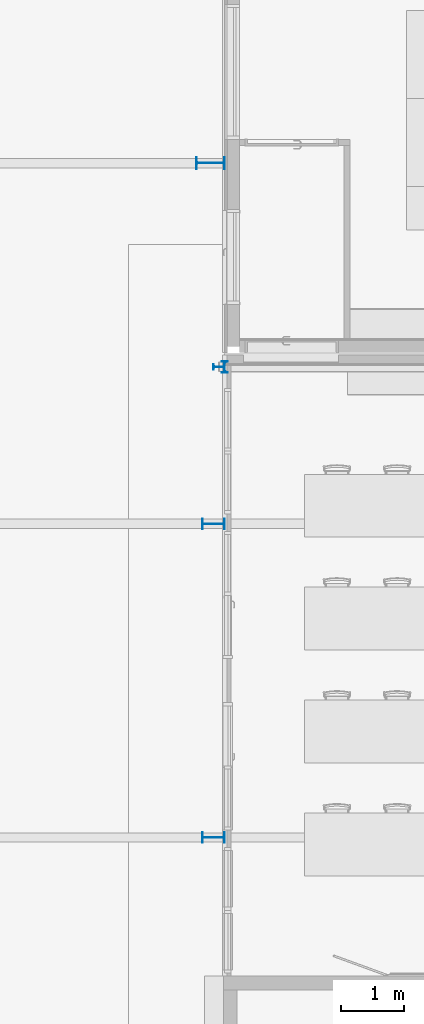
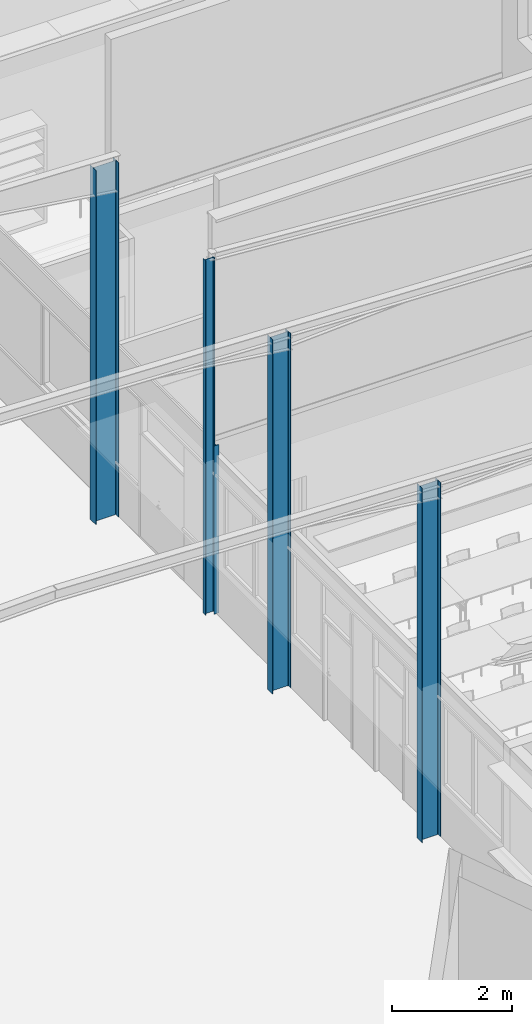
# One storey, part 5 of 137: 5 columns.
"""IFC2X3 building model written with IfcOpenShell, lengths in centimetres."""

from ifc_helpers import new_model, entity, si_unit, converted_unit, derived_unit, direction, frame, frame_2d, origin, place, context, subcontext, project, spatial, polyline, circle_curve, parameter, trimmed, segment, composite_curve, outline, extrude, source, transform, mapped, material, type_object, type_shapes, element, save


model = new_model("IFC2X3")

# Units and contexts
model_context = context("Model", 3, precision=0.001, world=origin(), true_north=direction((6.12303176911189e-17, 1.0)))
body_context = subcontext(model_context, "Body", "Model", "MODEL_VIEW")
ifc_project = project(units=[si_unit("LENGTHUNIT", "METRE", prefix="CENTI"), si_unit("AREAUNIT", "SQUARE_METRE"), si_unit("VOLUMEUNIT", "CUBIC_METRE"), converted_unit("PLANEANGLEUNIT", "DEGREE", entity("IfcRatioMeasure", 0.0174532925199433), si_unit("PLANEANGLEUNIT", "RADIAN"), dimensions=[0, 0, 0, 0, 0, 0, 0]), si_unit("MASSUNIT", "GRAM", prefix="KILO"), si_unit("TIMEUNIT", "SECOND"), si_unit("FREQUENCYUNIT", "HERTZ"), si_unit("THERMODYNAMICTEMPERATUREUNIT", "DEGREE_CELSIUS"), derived_unit("THERMALTRANSMITTANCEUNIT", [(si_unit("MASSUNIT", "GRAM", prefix="KILO"), 1), (si_unit("THERMODYNAMICTEMPERATUREUNIT", "KELVIN"), -1), (si_unit("TIMEUNIT", "SECOND"), -3)]), derived_unit("VOLUMETRICFLOWRATEUNIT", [(si_unit("LENGTHUNIT", "METRE"), 3), (si_unit("TIMEUNIT", "SECOND"), -1)]), si_unit("ELECTRICCURRENTUNIT", "AMPERE"), si_unit("ELECTRICVOLTAGEUNIT", "VOLT"), si_unit("POWERUNIT", "WATT"), si_unit("FORCEUNIT", "NEWTON", prefix="KILO"), si_unit("ILLUMINANCEUNIT", "LUX"), si_unit("LUMINOUSFLUXUNIT", "LUMEN"), si_unit("LUMINOUSINTENSITYUNIT", "CANDELA"), derived_unit("USERDEFINED", [(si_unit("MASSUNIT", "GRAM", prefix="KILO"), -1), (si_unit("LENGTHUNIT", "METRE"), -2), (si_unit("TIMEUNIT", "SECOND"), 3), (si_unit("LUMINOUSFLUXUNIT", "LUMEN"), 1)]), derived_unit("LINEARVELOCITYUNIT", [(si_unit("LENGTHUNIT", "METRE"), 1), (si_unit("TIMEUNIT", "SECOND"), -1)]), si_unit("PRESSUREUNIT", "PASCAL"), derived_unit("USERDEFINED", [(si_unit("LENGTHUNIT", "METRE"), -2), (si_unit("MASSUNIT", "GRAM", prefix="KILO"), 1), (si_unit("TIMEUNIT", "SECOND"), -2)])], contexts=[model_context])

# Site, building, storey
site_placement = place(None, frame((8.62739174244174, -249.285249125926, 0.0)))
site = spatial("IfcSite", under=ifc_project, at=site_placement, Name="Default", CompositionType="ELEMENT")
building_placement = place(site_placement, origin())
building = spatial("IfcBuilding", under=site, at=building_placement, CompositionType="ELEMENT")
storey_placement = place(building_placement, origin())
storey = spatial("IfcBuildingStorey", under=building, at=storey_placement, Name="RDC", CompositionType="ELEMENT", Elevation=-8.82465566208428e-11)

# Columns
ifc_material = material(Name="Acier, 45-345")
column_type_1 = type_object("IfcColumnType", Name="IPE360", PredefinedType="COLUMN", material=ifc_material)
shared_shape_1 = source(origin(), body_context, "Body", "SweptSolid", [
    extrude(outline(composite_curve([segment(polyline([(17.1, -8.5), (18.0, -8.5)]), True, "CONTINUOUS"), segment(polyline([(18.0, -8.5), (18.0, 8.5)]), True, "CONTINUOUS"), segment(polyline([(18.0, 8.5), (17.1, 8.5)]), True, "CONTINUOUS"), segment(polyline([(17.1, 8.5), (17.1, 1.79999999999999)]), True, "CONTINUOUS"), segment(trimmed(circle_curve(frame_2d((15.6, 1.80000000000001), x_axis=(1.0, 0.0)), 1.50000000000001), [parameter(270.000000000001)], [parameter(0.0)], True, "PARAMETER"), False, "CONTINUOUS"), segment(polyline([(15.6, 0.3), (-15.6, 0.3)]), True, "CONTINUOUS"), segment(trimmed(circle_curve(frame_2d((-15.6, 1.8), x_axis=(0.0, -1.0)), 1.5), [parameter(270.0)], [parameter(0.0)], True, "PARAMETER"), False, "CONTINUOUS"), segment(polyline([(-17.1, 1.8), (-17.1, 8.5)]), True, "CONTINUOUS"), segment(polyline([(-17.1, 8.5), (-18.0, 8.5)]), True, "CONTINUOUS"), segment(polyline([(-18.0, 8.5), (-18.0, -8.5)]), True, "CONTINUOUS"), segment(polyline([(-18.0, -8.5), (-17.1, -8.5)]), True, "CONTINUOUS"), segment(polyline([(-17.1, -8.5), (-17.1, -1.8)]), True, "CONTINUOUS"), segment(trimmed(circle_curve(frame_2d((-15.6, -1.8), x_axis=(-1.0, 0.0)), 1.5), [parameter(269.999999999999)], [parameter(0.0)], True, "PARAMETER"), False, "CONTINUOUS"), segment(polyline([(-15.6, -0.299999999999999), (15.6, -0.299999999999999)]), True, "CONTINUOUS"), segment(trimmed(circle_curve(frame_2d((15.6, -1.79999999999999), x_axis=(0.0, 1.0)), 1.49999999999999), [parameter(269.999999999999)], [parameter(0.0)], True, "PARAMETER"), False, "CONTINUOUS"), segment(polyline([(17.1, -1.8), (17.1, -8.5)]), True, "CONTINUOUS")], self_intersect=False)), frame((0.0, 0.0, 0.0), z_axis=(0.0, 0.0, 1.0), x_axis=(0.0, -1.0, 0.0)), (0.0, 0.0, 1.0), 722.0),
])
type_shapes(column_type_1, [shared_shape_1])
for number, where, z_axis, x_axis in (
    (1, (3011.90482780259, 2361.98020806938, 0.0), (0.0, 0.0, 1.0), (0.0, -1.0, 0.0)),
    (2, (3011.90482780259, 1861.98020806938, 0.0), (0.0, 0.0, 1.0), (0.0, -1.0, 0.0)),
):
    element("IfcColumn", number, at=place(storey_placement, frame(where, z_axis=z_axis, x_axis=x_axis)), inside=storey, type_object=column_type_1, material=ifc_material, Name="IPE-360-170:IPE360", ObjectType="IPE360", context=body_context, shape_type="MappedRepresentation", body=[
        mapped(shared_shape_1, transform((0.0, 0.0, 0.0), scale=1.0)),
    ])
column_type_2 = type_object("IfcColumnType", Name="IPE 180", PredefinedType="COLUMN", material=ifc_material)
shared_shape_2 = source(origin(), body_context, "Body", "SweptSolid", [
    extrude(outline(composite_curve([segment(polyline([(8.1, -4.5), (9.0, -4.5)]), True, "CONTINUOUS"), segment(polyline([(9.0, -4.5), (9.0, 4.5)]), True, "CONTINUOUS"), segment(polyline([(9.0, 4.5), (8.1, 4.5)]), True, "CONTINUOUS"), segment(polyline([(8.1, 4.5), (8.1, 1.8)]), True, "CONTINUOUS"), segment(trimmed(circle_curve(frame_2d((6.6, 1.8), x_axis=(1.0, 0.0)), 1.5), [parameter(270.0)], [parameter(0.0)], True, "PARAMETER"), False, "CONTINUOUS"), segment(polyline([(6.60000000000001, 0.300000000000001), (-6.6, 0.300000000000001)]), True, "CONTINUOUS"), segment(trimmed(circle_curve(frame_2d((-6.6, 1.8), x_axis=(0.0, -1.0)), 1.5), [parameter(270.0)], [parameter(0.0)], True, "PARAMETER"), False, "CONTINUOUS"), segment(polyline([(-8.1, 1.8), (-8.1, 4.5)]), True, "CONTINUOUS"), segment(polyline([(-8.1, 4.5), (-9.0, 4.5)]), True, "CONTINUOUS"), segment(polyline([(-9.0, 4.5), (-9.0, -4.5)]), True, "CONTINUOUS"), segment(polyline([(-9.0, -4.5), (-8.1, -4.5)]), True, "CONTINUOUS"), segment(polyline([(-8.1, -4.5), (-8.1, -1.8)]), True, "CONTINUOUS"), segment(trimmed(circle_curve(frame_2d((-6.6, -1.8), x_axis=(-1.0, 0.0)), 1.5), [parameter(270.0)], [parameter(0.0)], True, "PARAMETER"), False, "CONTINUOUS"), segment(polyline([(-6.6, -0.3), (6.6, -0.3)]), True, "CONTINUOUS"), segment(trimmed(circle_curve(frame_2d((6.6, -1.8), x_axis=(0.0, 1.0)), 1.5), [parameter(270.0)], [parameter(0.0)], True, "PARAMETER"), False, "CONTINUOUS"), segment(polyline([(8.1, -1.8), (8.1, -4.5)]), True, "CONTINUOUS")], self_intersect=False)), frame((0.0, 0.0, 0.0), z_axis=(0.0, 0.0, 1.0), x_axis=(0.0, -1.0, 0.0)), (0.0, 0.0, 1.0), 343.0),
])
type_shapes(column_type_2, [shared_shape_2])
column_1_placement = place(storey_placement, frame((3030.20482780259, 2611.98020806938, 0.0)))
element("IfcColumn", 3, at=column_1_placement, inside=storey, type_object=column_type_2, material=ifc_material, Name="IPE-180-90:IPE 180", ObjectType="IPE 180", context=body_context, shape_type="MappedRepresentation", body=[
    mapped(shared_shape_2, transform((0.0, 0.0, 0.0), scale=1.0)),
])
column_type_3 = type_object("IfcColumnType", Name="IPE 180", PredefinedType="COLUMN", material=ifc_material)
shared_shape_3 = source(origin(), body_context, "Body", "SweptSolid", [
    extrude(outline(composite_curve([segment(polyline([(8.1, -4.5), (9.0, -4.5)]), True, "CONTINUOUS"), segment(polyline([(9.0, -4.5), (9.0, 4.5)]), True, "CONTINUOUS"), segment(polyline([(9.0, 4.5), (8.1, 4.5)]), True, "CONTINUOUS"), segment(polyline([(8.1, 4.5), (8.1, 1.8)]), True, "CONTINUOUS"), segment(trimmed(circle_curve(frame_2d((6.6, 1.8), x_axis=(1.0, 0.0)), 1.5), [parameter(270.0)], [parameter(0.0)], True, "PARAMETER"), False, "CONTINUOUS"), segment(polyline([(6.60000000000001, 0.300000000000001), (-6.6, 0.300000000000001)]), True, "CONTINUOUS"), segment(trimmed(circle_curve(frame_2d((-6.6, 1.8), x_axis=(0.0, -1.0)), 1.5), [parameter(270.0)], [parameter(0.0)], True, "PARAMETER"), False, "CONTINUOUS"), segment(polyline([(-8.1, 1.8), (-8.1, 4.5)]), True, "CONTINUOUS"), segment(polyline([(-8.1, 4.5), (-9.0, 4.5)]), True, "CONTINUOUS"), segment(polyline([(-9.0, 4.5), (-9.0, -4.5)]), True, "CONTINUOUS"), segment(polyline([(-9.0, -4.5), (-8.1, -4.5)]), True, "CONTINUOUS"), segment(polyline([(-8.1, -4.5), (-8.1, -1.8)]), True, "CONTINUOUS"), segment(trimmed(circle_curve(frame_2d((-6.6, -1.8), x_axis=(-1.0, 0.0)), 1.5), [parameter(270.0)], [parameter(0.0)], True, "PARAMETER"), False, "CONTINUOUS"), segment(polyline([(-6.6, -0.3), (6.6, -0.3)]), True, "CONTINUOUS"), segment(trimmed(circle_curve(frame_2d((6.6, -1.8), x_axis=(0.0, 1.0)), 1.5), [parameter(270.0)], [parameter(0.0)], True, "PARAMETER"), False, "CONTINUOUS"), segment(polyline([(8.1, -1.8), (8.1, -4.5)]), True, "CONTINUOUS")], self_intersect=False)), frame((0.0, 0.0, 0.0), z_axis=(0.0, 0.0, 1.0), x_axis=(0.0, -1.0, 0.0)), (0.0, 0.0, 1.0), 722.0),
])
type_shapes(column_type_3, [shared_shape_3])
column_2_placement = place(storey_placement, frame((3020.90482780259, 2611.98020806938, 0.0), z_axis=(0.0, 0.0, 1.0), x_axis=(0.0, 1.0, 0.0)))
element("IfcColumn", 4, at=column_2_placement, inside=storey, type_object=column_type_3, material=ifc_material, Name="IPE-180-90:IPE 180", ObjectType="IPE 180", context=body_context, shape_type="MappedRepresentation", body=[
    mapped(shared_shape_3, transform((0.0, 0.0, 0.0), scale=1.0)),
])
column_type_4 = type_object("IfcColumnType", Name="IPE 450", PredefinedType="COLUMN", material=ifc_material)
shared_shape_4 = source(origin(), body_context, "Body", "SweptSolid", [
    extrude(outline(composite_curve([segment(polyline([(21.6, -9.5), (22.5, -9.5)]), True, "CONTINUOUS"), segment(polyline([(22.5, -9.5), (22.5, 9.5)]), True, "CONTINUOUS"), segment(polyline([(22.5, 9.5), (21.6, 9.5)]), True, "CONTINUOUS"), segment(polyline([(21.6, 9.5), (21.6, 1.79999999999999)]), True, "CONTINUOUS"), segment(trimmed(circle_curve(frame_2d((20.1, 1.79999999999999), x_axis=(1.0, 0.0)), 1.49999999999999), [parameter(269.999999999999)], [parameter(0.0)], True, "PARAMETER"), False, "CONTINUOUS"), segment(polyline([(20.1, 0.3), (-20.1, 0.3)]), True, "CONTINUOUS"), segment(trimmed(circle_curve(frame_2d((-20.1, 1.8), x_axis=(0.0, -1.0)), 1.5), [parameter(270.0)], [parameter(0.0)], True, "PARAMETER"), False, "CONTINUOUS"), segment(polyline([(-21.6, 1.8), (-21.6, 9.5)]), True, "CONTINUOUS"), segment(polyline([(-21.6, 9.5), (-22.5, 9.5)]), True, "CONTINUOUS"), segment(polyline([(-22.5, 9.5), (-22.5, -9.5)]), True, "CONTINUOUS"), segment(polyline([(-22.5, -9.5), (-21.6, -9.5)]), True, "CONTINUOUS"), segment(polyline([(-21.6, -9.5), (-21.6, -1.8)]), True, "CONTINUOUS"), segment(trimmed(circle_curve(frame_2d((-20.1, -1.8), x_axis=(-1.0, 0.0)), 1.5), [parameter(269.999999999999)], [parameter(0.0)], True, "PARAMETER"), False, "CONTINUOUS"), segment(polyline([(-20.1, -0.299999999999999), (20.1, -0.299999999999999)]), True, "CONTINUOUS"), segment(trimmed(circle_curve(frame_2d((20.1, -1.80000000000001), x_axis=(0.0, 1.0)), 1.50000000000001), [parameter(270.0)], [parameter(0.0)], True, "PARAMETER"), False, "CONTINUOUS"), segment(polyline([(21.6, -1.8), (21.6, -9.5)]), True, "CONTINUOUS")], self_intersect=False)), frame((0.0, 0.0, 0.0), z_axis=(0.0, 0.0, 1.0), x_axis=(0.0, -1.0, 0.0)), (0.0, 0.0, 1.0), 722.0),
])
type_shapes(column_type_4, [shared_shape_4])
column_3_placement = place(storey_placement, frame((3007.40482780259, 2936.98020806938, 0.0), z_axis=(0.0, 0.0, 1.0), x_axis=(0.0, -1.0, 0.0)))
element("IfcColumn", 5, at=column_3_placement, inside=storey, type_object=column_type_4, material=ifc_material, Name="IPE-450-190:IPE 450", ObjectType="IPE 450", context=body_context, shape_type="MappedRepresentation", body=[
    mapped(shared_shape_4, transform((0.0, 0.0, 0.0), scale=1.0)),
])

save(model, "model.ifc")
